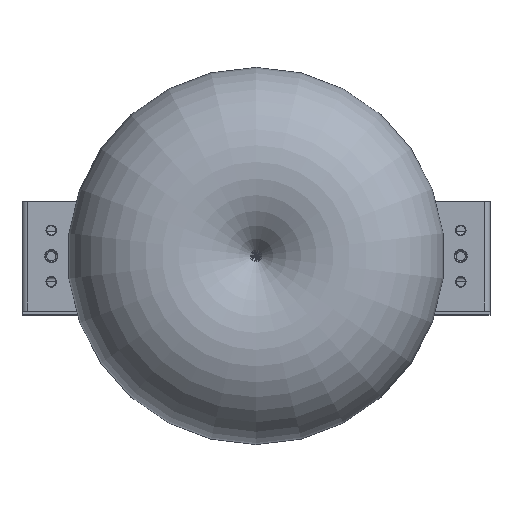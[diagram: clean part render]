
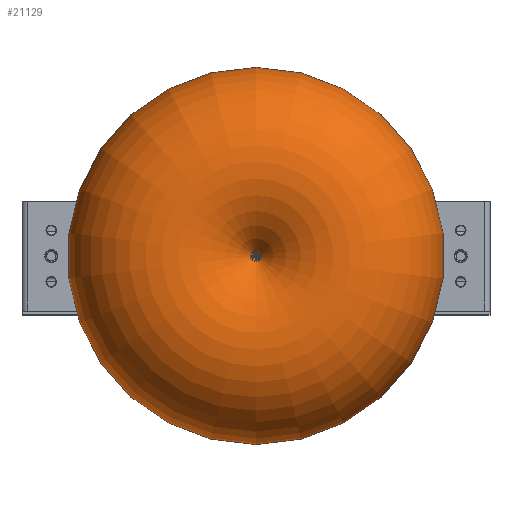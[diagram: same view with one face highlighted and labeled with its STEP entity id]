
A CAD part, top view. The second image highlights one B-rep face of the part: STEP entity #21129.
In plain terms, the highlighted toroidal (fillet/blend) face has major radius 74.582 mm and minor radius 86.585 mm.
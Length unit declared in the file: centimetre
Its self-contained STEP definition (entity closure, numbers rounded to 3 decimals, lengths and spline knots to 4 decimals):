
#254=DEGENERATE_TOROIDAL_SURFACE('',#23374,7.4583,8.6585,
 .F.);
#7621=VERTEX_POINT('',#36114);
#7632=VERTEX_POINT('',#36147);
#8757=CIRCLE('',#23351,1.1);
#8768=CIRCLE('',#23373,1.2);
#11426=EDGE_CURVE('',#7621,#7621,#8757,.T.);
#11439=EDGE_CURVE('',#7632,#7632,#8768,.T.);
#16801=ORIENTED_EDGE('',*,*,#11426,.F.);
#16802=ORIENTED_EDGE('',*,*,#11439,.T.);
#18396=EDGE_LOOP('',(#16801));
#18397=EDGE_LOOP('',(#16802));
#19953=FACE_BOUND('',#18396,.T.);
#19954=FACE_BOUND('',#18397,.T.);
#21129=ADVANCED_FACE('',(#19953,#19954),#254,.T.);
#23351=AXIS2_PLACEMENT_3D('',#36113,#28780,#28781);
#23373=AXIS2_PLACEMENT_3D('',#36146,#28819,#28820);
#23374=AXIS2_PLACEMENT_3D('',#36148,#28821,$);
#28780=DIRECTION('',(1.,0.,0.));
#28781=DIRECTION('',(0.,1.1,0.));
#28819=DIRECTION('',(1.,0.,0.));
#28820=DIRECTION('',(0.,1.2,0.));
#28821=DIRECTION('',(1.,0.,0.));
#36113=CARTESIAN_POINT('',(5.1,0.,0.));
#36114=CARTESIAN_POINT('',(5.1,1.1,0.));
#36146=CARTESIAN_POINT('',(3.85,0.,0.));
#36147=CARTESIAN_POINT('',(3.85,1.2,0.));
#36148=CARTESIAN_POINT('',(3.7863,0.,0.));
